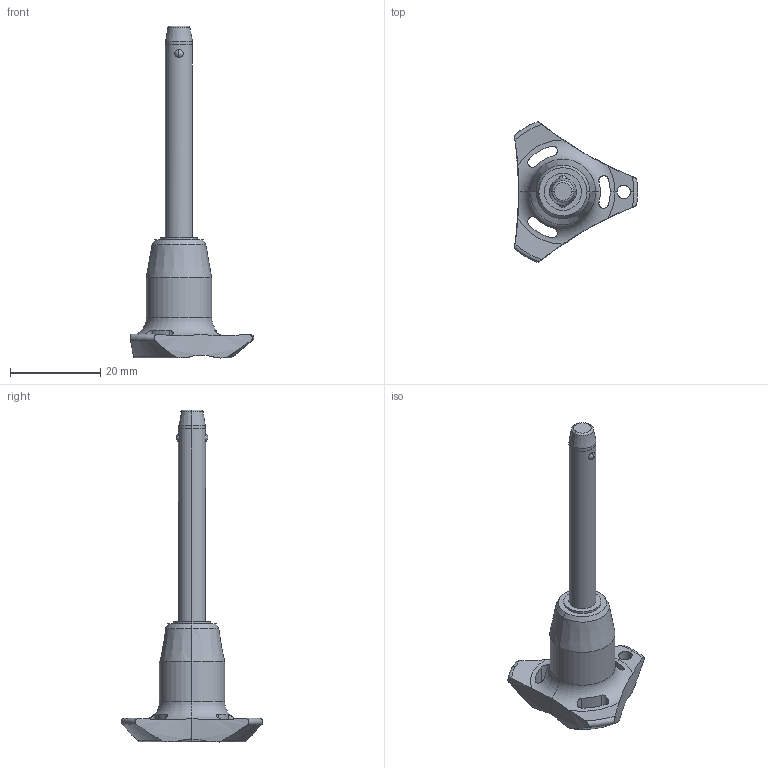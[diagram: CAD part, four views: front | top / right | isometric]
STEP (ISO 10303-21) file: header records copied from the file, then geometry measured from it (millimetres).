
FILE_DESCRIPTION (( 'STEP AP203' ), '1' );
FILE_NAME ('QR1716.M06-040-T.step', '2025-11-13T10:28:00', ( '' ), ( '' ), 'SwSTEP 2.0', 'SolidWorks 2019', '' );
FILE_SCHEMA (( 'CONFIG_CONTROL_DESIGN' ));
Length unit declared in the file: millimetre
Products named in the file (1): QR1716.M06-040-T
Bounding box: 27.4 x 31.31 x 73.7 mm (x, y, z)
Volume: 6096.9 mm3; surface area: 3306.9 mm2
Topology: 1 solids, 1 shells, 69 faces, 187 edges, 119 vertices
Faces by surface type: cylinder 32, cone 14, torus 12, sphere 6, plane 5
Entity records: 2789 total; most frequent: CARTESIAN_POINT 1010, ORIENTED_EDGE 374, DIRECTION 348, EDGE_CURVE 187, AXIS2_PLACEMENT_3D 155, VERTEX_POINT 119, CIRCLE 85, EDGE_LOOP 76
